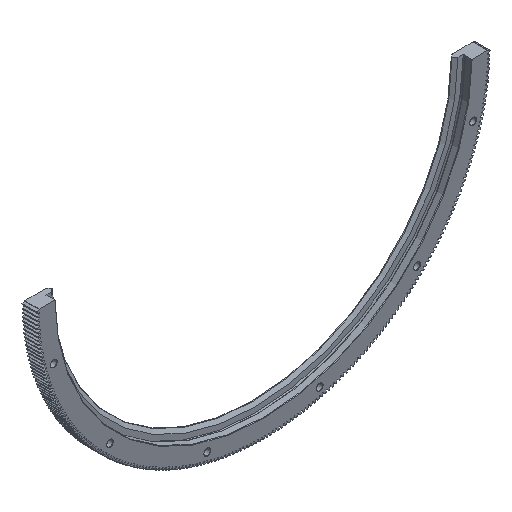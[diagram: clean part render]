
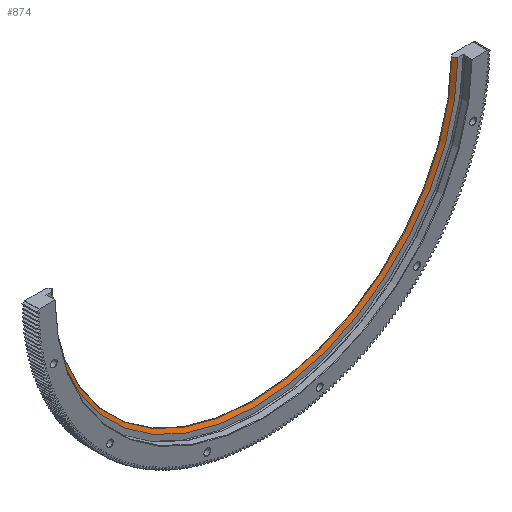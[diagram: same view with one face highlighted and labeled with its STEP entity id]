
A CAD part, isometric view. The second image highlights one B-rep face of the part: STEP entity #874.
In plain terms, the highlighted conical face has half-angle 55 degrees and reference radius 212.465 mm.
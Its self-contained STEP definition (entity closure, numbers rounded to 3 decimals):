
#874 = ADVANCED_FACE( '', ( #2892 ), #2893, .F. );
#2892 = FACE_OUTER_BOUND( '', #5292, .T. );
#2893 = CONICAL_SURFACE( '', #5293, 212.465, 0.96 );
#5292 = EDGE_LOOP( '', ( #13919, #13920, #13921, #13922 ) );
#5293 = AXIS2_PLACEMENT_3D( '', #13923, #13924, #13925 );
#13919 = ORIENTED_EDGE( '', *, *, #19905, .T. );
#13920 = ORIENTED_EDGE( '', *, *, #18576, .T. );
#13921 = ORIENTED_EDGE( '', *, *, #19906, .F. );
#13922 = ORIENTED_EDGE( '', *, *, #16615, .T. );
#13923 = CARTESIAN_POINT( '', ( 0., 12.09, 0. ) );
#13924 = DIRECTION( '', ( 0., -1., 0. ) );
#13925 = DIRECTION( '', ( 0., 0., -1. ) );
#16615 = EDGE_CURVE( '', #20128, #20126, #20129, .T. );
#18576 = EDGE_CURVE( '', #24037, #24035, #24038, .T. );
#19905 = EDGE_CURVE( '', #20126, #24037, #25745, .T. );
#19906 = EDGE_CURVE( '', #20128, #24035, #25746, .T. );
#20126 = VERTEX_POINT( '', #25984 );
#20128 = VERTEX_POINT( '', #25987 );
#20129 = B_SPLINE_CURVE_WITH_KNOTS( '', 3, ( #25988, #25989, #25990, #25991 ), .UNSPECIFIED., .F., .F., ( 4, 4 ), ( 0.836, 0.84 ), .UNSPECIFIED. );
#24035 = VERTEX_POINT( '', #31459 );
#24037 = VERTEX_POINT( '', #31468 );
#24038 = B_SPLINE_CURVE_WITH_KNOTS( '', 3, ( #31469, #31470, #31471, #31472 ), .UNSPECIFIED., .F., .F., ( 4, 4 ), ( 0.317, 0.321 ), .UNSPECIFIED. );
#25745 = CIRCLE( '', #35261, 216.164 );
#25746 = CIRCLE( '', #35262, 212.465 );
#25984 = CARTESIAN_POINT( '', ( -216.155, 9.5, -2. ) );
#25987 = CARTESIAN_POINT( '', ( -212.456, 12.09, -2. ) );
#25988 = CARTESIAN_POINT( '', ( -212.456, 12.09, -2. ) );
#25989 = CARTESIAN_POINT( '', ( -213.689, 11.227, -2. ) );
#25990 = CARTESIAN_POINT( '', ( -214.922, 10.363, -2. ) );
#25991 = CARTESIAN_POINT( '', ( -216.155, 9.5, -2. ) );
#31459 = CARTESIAN_POINT( '', ( 212.456, 12.09, -2. ) );
#31468 = CARTESIAN_POINT( '', ( 216.155, 9.5, -2. ) );
#31469 = CARTESIAN_POINT( '', ( 216.155, 9.5, -2. ) );
#31470 = CARTESIAN_POINT( '', ( 214.922, 10.363, -2. ) );
#31471 = CARTESIAN_POINT( '', ( 213.689, 11.227, -2. ) );
#31472 = CARTESIAN_POINT( '', ( 212.456, 12.09, -2. ) );
#35261 = AXIS2_PLACEMENT_3D( '', #39207, #39208, #39209 );
#35262 = AXIS2_PLACEMENT_3D( '', #39210, #39211, #39212 );
#39207 = CARTESIAN_POINT( '', ( 0., 9.5, 0. ) );
#39208 = DIRECTION( '', ( 0., -1., 0. ) );
#39209 = DIRECTION( '', ( 0., 0., -1. ) );
#39210 = CARTESIAN_POINT( '', ( 0., 12.09, 0. ) );
#39211 = DIRECTION( '', ( 0., -1., 0. ) );
#39212 = DIRECTION( '', ( 0., 0., -1. ) );
